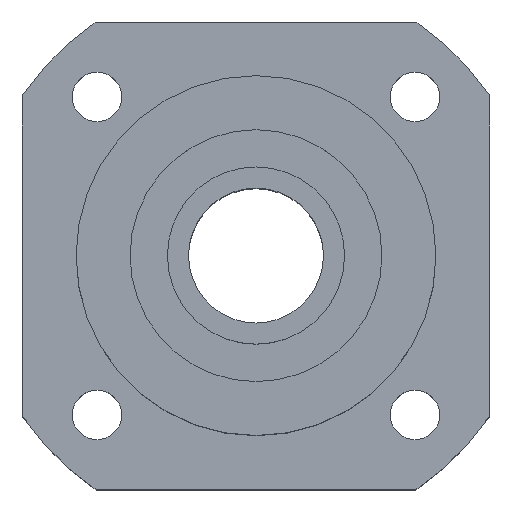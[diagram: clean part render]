
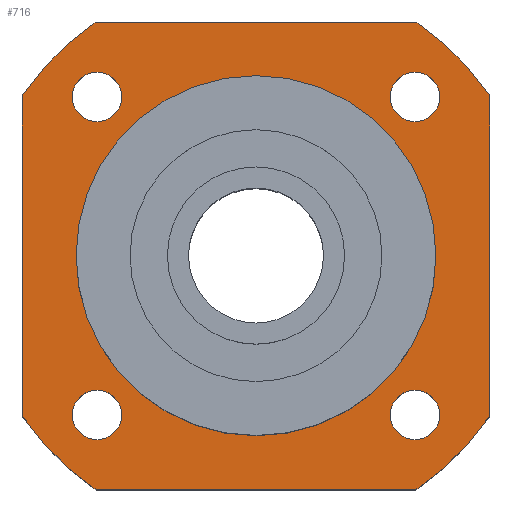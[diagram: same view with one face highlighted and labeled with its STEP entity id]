
A CAD part, top view. The second image highlights one B-rep face of the part: STEP entity #716.
In plain terms, the highlighted planar face has unit normal (0, 0, 1).
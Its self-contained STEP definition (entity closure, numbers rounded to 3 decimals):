
#35=LINE($,#1340,#67);
#38=LINE($,#1348,#70);
#41=LINE($,#1356,#73);
#44=LINE($,#1363,#76);
#67=VECTOR($,#1000,35.567);
#70=VECTOR($,#1009,35.567);
#73=VECTOR($,#1018,35.567);
#76=VECTOR($,#1027,35.567);
#190=FACE_BOUND($,#278,.T.);
#191=FACE_BOUND($,#279,.T.);
#192=FACE_BOUND($,#280,.T.);
#193=FACE_BOUND($,#281,.T.);
#194=FACE_BOUND($,#282,.T.);
#195=FACE_BOUND($,#283,.T.);
#278=EDGE_LOOP($,(#637));
#279=EDGE_LOOP($,(#638));
#280=EDGE_LOOP($,(#639));
#281=EDGE_LOOP($,(#640));
#282=EDGE_LOOP($,(#641));
#283=EDGE_LOOP($,(#642,#643,#644,#645,#646,#647,#648,#649));
#320=CIRCLE($,#788,2.75);
#321=CIRCLE($,#790,2.75);
#322=CIRCLE($,#792,2.75);
#323=CIRCLE($,#794,2.75);
#325=CIRCLE($,#797,20.);
#326=CIRCLE($,#800,31.5);
#327=CIRCLE($,#803,31.5);
#328=CIRCLE($,#806,31.5);
#329=CIRCLE($,#809,31.5);
#384=VERTEX_POINT($,#1315);
#385=VERTEX_POINT($,#1318);
#386=VERTEX_POINT($,#1321);
#387=VERTEX_POINT($,#1324);
#389=VERTEX_POINT($,#1329);
#390=VERTEX_POINT($,#1333);
#391=VERTEX_POINT($,#1335);
#392=VERTEX_POINT($,#1339);
#393=VERTEX_POINT($,#1343);
#394=VERTEX_POINT($,#1347);
#395=VERTEX_POINT($,#1351);
#396=VERTEX_POINT($,#1355);
#397=VERTEX_POINT($,#1359);
#460=EDGE_CURVE($,#384,#384,#320,.T.);
#461=EDGE_CURVE($,#385,#385,#321,.T.);
#462=EDGE_CURVE($,#386,#386,#322,.T.);
#463=EDGE_CURVE($,#387,#387,#323,.T.);
#465=EDGE_CURVE($,#389,#389,#325,.T.);
#467=EDGE_CURVE($,#391,#390,#326,.T.);
#469=EDGE_CURVE($,#392,#391,#35,.T.);
#471=EDGE_CURVE($,#393,#392,#327,.T.);
#473=EDGE_CURVE($,#394,#393,#38,.T.);
#475=EDGE_CURVE($,#395,#394,#328,.T.);
#477=EDGE_CURVE($,#396,#395,#41,.T.);
#479=EDGE_CURVE($,#397,#396,#329,.T.);
#481=EDGE_CURVE($,#390,#397,#44,.T.);
#637=ORIENTED_EDGE($,*,*,#460,.T.);
#638=ORIENTED_EDGE($,*,*,#461,.T.);
#639=ORIENTED_EDGE($,*,*,#462,.T.);
#640=ORIENTED_EDGE($,*,*,#463,.T.);
#641=ORIENTED_EDGE($,*,*,#465,.T.);
#642=ORIENTED_EDGE($,*,*,#481,.T.);
#643=ORIENTED_EDGE($,*,*,#479,.T.);
#644=ORIENTED_EDGE($,*,*,#477,.T.);
#645=ORIENTED_EDGE($,*,*,#475,.T.);
#646=ORIENTED_EDGE($,*,*,#473,.T.);
#647=ORIENTED_EDGE($,*,*,#471,.T.);
#648=ORIENTED_EDGE($,*,*,#469,.T.);
#649=ORIENTED_EDGE($,*,*,#467,.T.);
#670=PLANE($,#811);
#716=ADVANCED_FACE($,(#190,#191,#192,#193,#194,#195),#670,.T.);
#788=AXIS2_PLACEMENT_3D($,#1316,#970,#971);
#790=AXIS2_PLACEMENT_3D($,#1319,#974,#975);
#792=AXIS2_PLACEMENT_3D($,#1322,#978,#979);
#794=AXIS2_PLACEMENT_3D($,#1325,#982,#983);
#797=AXIS2_PLACEMENT_3D($,#1330,#988,#989);
#800=AXIS2_PLACEMENT_3D($,#1336,#995,#996);
#803=AXIS2_PLACEMENT_3D($,#1344,#1004,#1005);
#806=AXIS2_PLACEMENT_3D($,#1352,#1013,#1014);
#809=AXIS2_PLACEMENT_3D($,#1360,#1022,#1023);
#811=AXIS2_PLACEMENT_3D($,#1364,#1028,#1029);
#970=DIRECTION('center_axis',(0.,0.,-1.));
#971=DIRECTION('ref_axis',(-1.,0.,0.));
#974=DIRECTION('center_axis',(0.,0.,-1.));
#975=DIRECTION('ref_axis',(-1.,0.,0.));
#978=DIRECTION('center_axis',(0.,0.,-1.));
#979=DIRECTION('ref_axis',(-1.,0.,0.));
#982=DIRECTION('center_axis',(0.,0.,-1.));
#983=DIRECTION('ref_axis',(-1.,0.,0.));
#988=DIRECTION('center_axis',(0.,0.,-1.));
#989=DIRECTION('ref_axis',(-1.,0.,0.));
#995=DIRECTION('center_axis',(0.,0.,1.));
#996=DIRECTION('ref_axis',(-0.825,-0.565,0.));
#1000=DIRECTION($,(0.,1.,0.));
#1004=DIRECTION('center_axis',(0.,0.,1.));
#1005=DIRECTION('ref_axis',(-0.565,0.825,0.));
#1009=DIRECTION($,(1.,0.,0.));
#1013=DIRECTION('center_axis',(0.,0.,1.));
#1014=DIRECTION('ref_axis',(0.825,0.565,0.));
#1018=DIRECTION($,(0.,-1.,0.));
#1022=DIRECTION('center_axis',(0.,0.,1.));
#1023=DIRECTION('ref_axis',(0.565,-0.825,0.));
#1027=DIRECTION($,(-1.,0.,0.));
#1028=DIRECTION('center_axis',(0.,0.,1.));
#1029=DIRECTION('ref_axis',(1.,0.,0.));
#1315=CARTESIAN_POINT('',(-14.928,-17.678,9.));
#1316=CARTESIAN_POINT('Origin',(-17.678,-17.678,9.));
#1318=CARTESIAN_POINT('',(20.428,17.678,9.));
#1319=CARTESIAN_POINT('Origin',(17.678,17.678,9.));
#1321=CARTESIAN_POINT('',(20.428,-17.678,9.));
#1322=CARTESIAN_POINT('Origin',(17.678,-17.678,9.));
#1324=CARTESIAN_POINT('',(-14.928,17.678,9.));
#1325=CARTESIAN_POINT('Origin',(-17.678,17.678,9.));
#1329=CARTESIAN_POINT('',(20.,0.,9.));
#1330=CARTESIAN_POINT('Origin',(0.,0.,9.));
#1333=CARTESIAN_POINT('',(17.783,26.,9.));
#1335=CARTESIAN_POINT('',(26.,17.783,9.));
#1336=CARTESIAN_POINT('Origin',(0.,0.,9.));
#1339=CARTESIAN_POINT('',(26.,-17.783,9.));
#1340=CARTESIAN_POINT($,(26.,17.783,9.));
#1343=CARTESIAN_POINT('',(17.783,-26.,9.));
#1344=CARTESIAN_POINT('Origin',(0.,0.,9.));
#1347=CARTESIAN_POINT('',(-17.783,-26.,9.));
#1348=CARTESIAN_POINT($,(17.783,-26.,9.));
#1351=CARTESIAN_POINT('',(-26.,-17.783,9.));
#1352=CARTESIAN_POINT('Origin',(0.,0.,9.));
#1355=CARTESIAN_POINT('',(-26.,17.783,9.));
#1356=CARTESIAN_POINT($,(-26.,-17.783,9.));
#1359=CARTESIAN_POINT('',(-17.783,26.,9.));
#1360=CARTESIAN_POINT('Origin',(0.,0.,9.));
#1363=CARTESIAN_POINT($,(-17.783,26.,9.));
#1364=CARTESIAN_POINT('Origin',(0.,0.,
9.));
